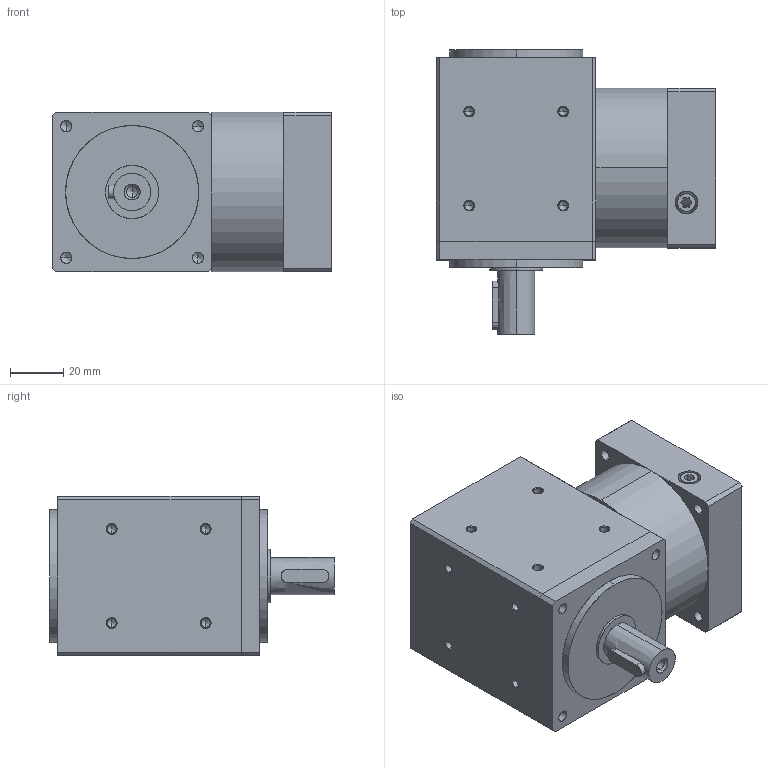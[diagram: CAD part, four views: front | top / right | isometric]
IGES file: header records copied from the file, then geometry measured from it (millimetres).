
Start section: SolidWorks IGES file using analytic representation for surfaces
Global section: file name: C:\Users\render\Documents\CAD Files\R-Gearboxes\RLAS\RLAS-060.IGS; native system: SolidWorks 2009; preprocessor: SolidWorks 2009; author: render; date: 100527.144935; units: millimetre
Bounding box: 105 x 107 x 60 mm (x, y, z)
Surface area: 60349.8 mm2 (no closed solid volume)
Topology: 0 solids, 0 shells, 213 faces, 3428 edges, 3386 vertices
Faces by surface type: revolution 167, bspline 46
